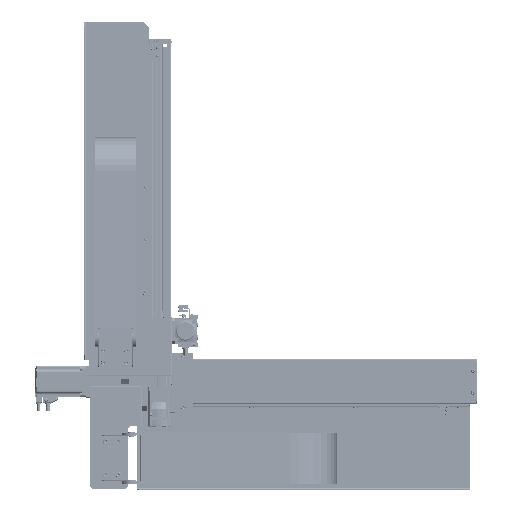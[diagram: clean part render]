
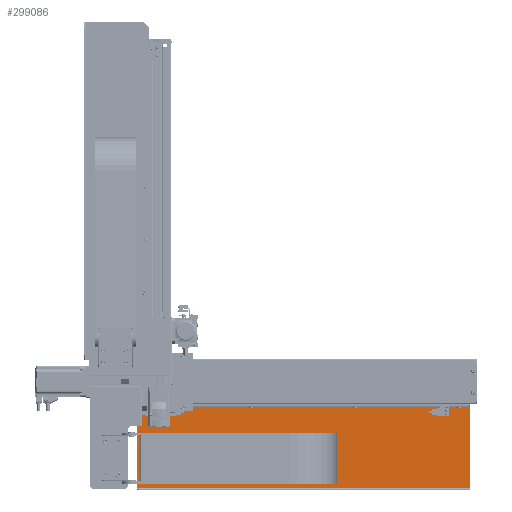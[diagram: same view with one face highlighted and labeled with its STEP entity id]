
A CAD part, top view. The second image highlights one B-rep face of the part: STEP entity #299086.
In plain terms, the highlighted planar face has unit normal (0, 0, 1).
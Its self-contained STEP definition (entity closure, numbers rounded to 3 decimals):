
#298961=CARTESIAN_POINT('Vertex',(191.24,-111.082,2.)) ;
#298964=CARTESIAN_POINT('Axis2P3D Location',(194.75,-113.,2.)) ;
#298968=CARTESIAN_POINT('Vertex',(198.26,-114.918,2.)) ;
#298984=CARTESIAN_POINT('Axis2P3D Location',(640.,-206.,2.)) ;
#298989=CARTESIAN_POINT('Line Origine',(640.,-125.5,2.)) ;
#298993=CARTESIAN_POINT('Vertex',(640.,-204.,2.)) ;
#298995=CARTESIAN_POINT('Vertex',(640.,-47.,2.)) ;
#298998=CARTESIAN_POINT('Line Origine',(320.,-47.,2.)) ;
#299002=CARTESIAN_POINT('Vertex',(0.,-47.,2.)) ;
#299005=CARTESIAN_POINT('Line Origine',(0.,-125.5,2.)) ;
#299009=CARTESIAN_POINT('Vertex',(0.,-204.,2.)) ;
#299012=CARTESIAN_POINT('Line Origine',(320.,-204.,2.)) ;
#299023=CARTESIAN_POINT('Axis2P3D Location',(194.75,-113.,2.)) ;
#299032=CARTESIAN_POINT('Axis2P3D Location',(218.75,-113.,2.)) ;
#299036=CARTESIAN_POINT('Vertex',(215.24,-111.082,2.)) ;
#299038=CARTESIAN_POINT('Vertex',(222.26,-114.918,2.)) ;
#299041=CARTESIAN_POINT('Axis2P3D Location',(218.75,-113.,2.)) ;
#299050=CARTESIAN_POINT('Axis2P3D Location',(194.75,-181.,2.)) ;
#299054=CARTESIAN_POINT('Vertex',(191.24,-179.082,2.)) ;
#299056=CARTESIAN_POINT('Vertex',(198.26,-182.918,2.)) ;
#299059=CARTESIAN_POINT('Axis2P3D Location',(194.75,-181.,2.)) ;
#299068=CARTESIAN_POINT('Axis2P3D Location',(218.75,-181.,2.)) ;
#299072=CARTESIAN_POINT('Vertex',(215.24,-179.082,2.)) ;
#299074=CARTESIAN_POINT('Vertex',(222.26,-182.918,2.)) ;
#299077=CARTESIAN_POINT('Axis2P3D Location',(218.75,-181.,2.)) ;
#298965=DIRECTION('Axis2P3D Direction',(0.,0.,-1.)) ;
#298985=DIRECTION('Axis2P3D Direction',(0.,0.,1.)) ;
#298986=DIRECTION('Axis2P3D XDirection',(0.,1.,0.)) ;
#298990=DIRECTION('Vector Direction',(0.,1.,0.)) ;
#298999=DIRECTION('Vector Direction',(-1.,0.,0.)) ;
#299006=DIRECTION('Vector Direction',(0.,1.,0.)) ;
#299013=DIRECTION('Vector Direction',(-1.,0.,0.)) ;
#299024=DIRECTION('Axis2P3D Direction',(0.,0.,1.)) ;
#299033=DIRECTION('Axis2P3D Direction',(0.,0.,1.)) ;
#299042=DIRECTION('Axis2P3D Direction',(0.,0.,1.)) ;
#299051=DIRECTION('Axis2P3D Direction',(0.,0.,1.)) ;
#299060=DIRECTION('Axis2P3D Direction',(0.,0.,1.)) ;
#299069=DIRECTION('Axis2P3D Direction',(0.,0.,1.)) ;
#299078=DIRECTION('Axis2P3D Direction',(0.,0.,1.)) ;
#298966=AXIS2_PLACEMENT_3D('Circle Axis2P3D',#298964,#298965,$) ;
#298987=AXIS2_PLACEMENT_3D('Plane Axis2P3D',#298984,#298985,#298986) ;
#299025=AXIS2_PLACEMENT_3D('Circle Axis2P3D',#299023,#299024,$) ;
#299034=AXIS2_PLACEMENT_3D('Circle Axis2P3D',#299032,#299033,$) ;
#299043=AXIS2_PLACEMENT_3D('Circle Axis2P3D',#299041,#299042,$) ;
#299052=AXIS2_PLACEMENT_3D('Circle Axis2P3D',#299050,#299051,$) ;
#299061=AXIS2_PLACEMENT_3D('Circle Axis2P3D',#299059,#299060,$) ;
#299070=AXIS2_PLACEMENT_3D('Circle Axis2P3D',#299068,#299069,$) ;
#299079=AXIS2_PLACEMENT_3D('Circle Axis2P3D',#299077,#299078,$) ;
#299018=ORIENTED_EDGE('',*,*,#298997,.T.) ;
#299019=ORIENTED_EDGE('',*,*,#299004,.F.) ;
#299020=ORIENTED_EDGE('',*,*,#299011,.F.) ;
#299021=ORIENTED_EDGE('',*,*,#299016,.T.) ;
#299029=ORIENTED_EDGE('',*,*,#299027,.F.) ;
#299030=ORIENTED_EDGE('',*,*,#298970,.F.) ;
#299047=ORIENTED_EDGE('',*,*,#299040,.F.) ;
#299048=ORIENTED_EDGE('',*,*,#299045,.F.) ;
#299065=ORIENTED_EDGE('',*,*,#299058,.F.) ;
#299066=ORIENTED_EDGE('',*,*,#299063,.F.) ;
#299083=ORIENTED_EDGE('',*,*,#299076,.F.) ;
#299084=ORIENTED_EDGE('',*,*,#299081,.F.) ;
#299031=FACE_BOUND('',#299028,.T.) ;
#299049=FACE_BOUND('',#299046,.T.) ;
#299067=FACE_BOUND('',#299064,.T.) ;
#299085=FACE_BOUND('',#299082,.T.) ;
#298991=VECTOR('Line Direction',#298990,1.) ;
#299000=VECTOR('Line Direction',#298999,1.) ;
#299007=VECTOR('Line Direction',#299006,1.) ;
#299014=VECTOR('Line Direction',#299013,1.) ;
#299086=ADVANCED_FACE('\X2\FF8AFF9FFF70FF82\X0\ \X2\FF8EFF9EFF83FF9EFF68FF70\X0\',(#299022,#299031,#299049,#299067,#299085),#298988,.T.) ;
#298967=CIRCLE('generated circle',#298966,4.) ;
#299026=CIRCLE('generated circle',#299025,4.) ;
#299035=CIRCLE('generated circle',#299034,4.) ;
#299044=CIRCLE('generated circle',#299043,4.) ;
#299053=CIRCLE('generated circle',#299052,4.) ;
#299062=CIRCLE('generated circle',#299061,4.) ;
#299071=CIRCLE('generated circle',#299070,4.) ;
#299080=CIRCLE('generated circle',#299079,4.) ;
#298970=EDGE_CURVE('',#298962,#298969,#298967,.F.) ;
#298997=EDGE_CURVE('',#298994,#298996,#298992,.T.) ;
#299004=EDGE_CURVE('',#299003,#298996,#299001,.F.) ;
#299011=EDGE_CURVE('',#299010,#299003,#299008,.T.) ;
#299016=EDGE_CURVE('',#299010,#298994,#299015,.F.) ;
#299027=EDGE_CURVE('',#298969,#298962,#299026,.T.) ;
#299040=EDGE_CURVE('',#299037,#299039,#299035,.T.) ;
#299045=EDGE_CURVE('',#299039,#299037,#299044,.T.) ;
#299058=EDGE_CURVE('',#299055,#299057,#299053,.T.) ;
#299063=EDGE_CURVE('',#299057,#299055,#299062,.T.) ;
#299076=EDGE_CURVE('',#299073,#299075,#299071,.T.) ;
#299081=EDGE_CURVE('',#299075,#299073,#299080,.T.) ;
#299017=EDGE_LOOP('',(#299018,#299019,#299020,#299021)) ;
#299028=EDGE_LOOP('',(#299029,#299030)) ;
#299046=EDGE_LOOP('',(#299047,#299048)) ;
#299064=EDGE_LOOP('',(#299065,#299066)) ;
#299082=EDGE_LOOP('',(#299083,#299084)) ;
#299022=FACE_OUTER_BOUND('',#299017,.T.) ;
#298992=LINE('Line',#298989,#298991) ;
#299001=LINE('Line',#298998,#299000) ;
#299008=LINE('Line',#299005,#299007) ;
#299015=LINE('Line',#299012,#299014) ;
#298988=PLANE('',#298987) ;
#298962=VERTEX_POINT('',#298961) ;
#298969=VERTEX_POINT('',#298968) ;
#298994=VERTEX_POINT('',#298993) ;
#298996=VERTEX_POINT('',#298995) ;
#299003=VERTEX_POINT('',#299002) ;
#299010=VERTEX_POINT('',#299009) ;
#299037=VERTEX_POINT('',#299036) ;
#299039=VERTEX_POINT('',#299038) ;
#299055=VERTEX_POINT('',#299054) ;
#299057=VERTEX_POINT('',#299056) ;
#299073=VERTEX_POINT('',#299072) ;
#299075=VERTEX_POINT('',#299074) ;
